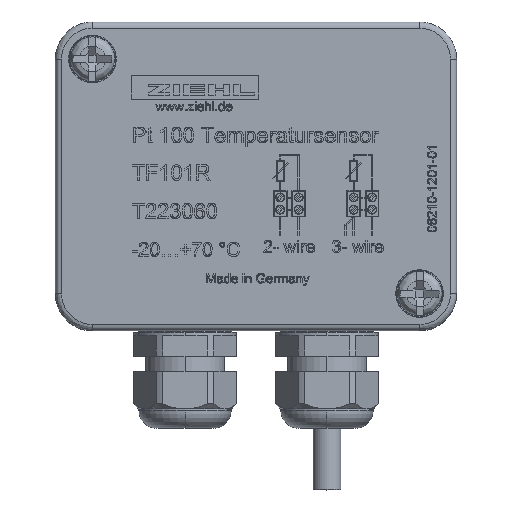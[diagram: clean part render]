
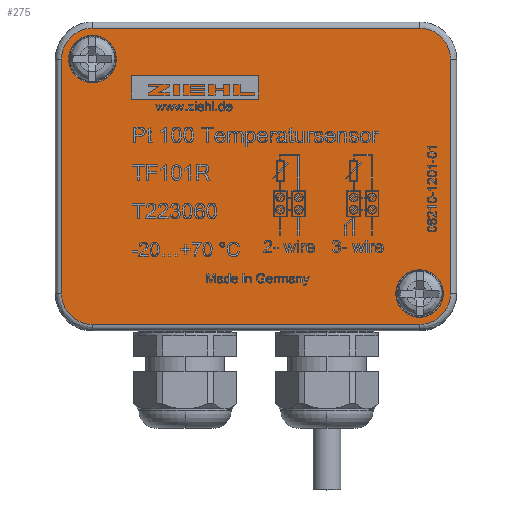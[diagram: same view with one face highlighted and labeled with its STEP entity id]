
A CAD part, top view. The second image highlights one B-rep face of the part: STEP entity #275.
In plain terms, the highlighted planar face has unit normal (0, 0, 1).
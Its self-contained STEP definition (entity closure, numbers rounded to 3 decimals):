
#275 = ADVANCED_FACE ( 'NONE', ( #18881, #35564, #9220 ), #45401, .F. ) ;
#903 = VERTEX_POINT ( 'NONE', #40307 ) ;
#3411 = EDGE_CURVE ( 'NONE', #58074, #37510, #49592, .T. ) ;
#4221 = CARTESIAN_POINT ( 'NONE',  ( 24., 26.5, 10. ) ) ;
#4758 = CARTESIAN_POINT ( 'NONE',  ( -24., -31.5, 10. ) ) ;
#5367 = EDGE_CURVE ( 'NONE', #56260, #56260, #51761, .T. ) ;
#5368 = CARTESIAN_POINT ( 'NONE',  ( -24., -26.5, 10. ) ) ;
#5603 = DIRECTION ( 'NONE',  ( 1., 0., 0. ) ) ;
#5811 = CARTESIAN_POINT ( 'NONE',  ( -19., -31.5, 10. ) ) ;
#6791 = VERTEX_POINT ( 'NONE', #5811 ) ;
#7887 = CARTESIAN_POINT ( 'NONE',  ( -19., 31.5, 10. ) ) ;
#9220 = FACE_BOUND ( 'NONE', #19762, .T. ) ;
#10016 = EDGE_CURVE ( 'NONE', #6791, #30674, #28299, .T. ) ;
#10092 = CARTESIAN_POINT ( 'NONE',  ( -24., 26.5, 10. ) ) ;
#10527 = EDGE_CURVE ( 'NONE', #37510, #903, #52987, .T. ) ;
#12082 = ORIENTED_EDGE ( 'NONE', *, *, #20029, .F. ) ;
#12246 = EDGE_CURVE ( 'NONE', #903, #57462, #40953, .T. ) ;
#13696 = EDGE_LOOP ( 'NONE', ( #26098 ) ) ;
#14440 = DIRECTION ( 'NONE',  ( 0., -1., 0. ) ) ;
#15219 = DIRECTION ( 'NONE',  ( 1., 0., 0. ) ) ;
#15281 = ORIENTED_EDGE ( 'NONE', *, *, #21992, .F. ) ;
#16559 = EDGE_CURVE ( 'NONE', #42516, #52634, #52451, .T. ) ;
#17245 = CARTESIAN_POINT ( 'NONE',  ( -24., 26.5, 10. ) ) ;
#18680 = CARTESIAN_POINT ( 'NONE',  ( 24., 26.5, 10. ) ) ;
#18881 = FACE_BOUND ( 'NONE', #13696, .T. ) ;
#19204 = CARTESIAN_POINT ( 'NONE',  ( 24., 29.429, 10. ) ) ;
#19762 = EDGE_LOOP ( 'NONE', ( #15281 ) ) ;
#20029 = EDGE_CURVE ( 'NONE', #57462, #42516, #47042, .T. ) ;
#20130 = CARTESIAN_POINT ( 'NONE',  ( 19., 26.5, 10. ) ) ;
#20254 = CARTESIAN_POINT ( 'NONE',  ( -19., -31.5, 10. ) ) ;
#20390 = CARTESIAN_POINT ( 'NONE',  ( -24., 31.5, 10. ) ) ;
#20681 = CARTESIAN_POINT ( 'NONE',  ( -24., 26.5, 10. ) ) ;
#20862 = CARTESIAN_POINT ( 'NONE',  ( -24., 29.429, 10. ) ) ;
#21517 = VECTOR ( 'NONE', #14440, 1000. ) ;
#21992 = EDGE_CURVE ( 'NONE', #49004, #49004, #55532, .T. ) ;
#24041 = LINE ( 'NONE', #17245, #48787 ) ;
#25295 = DIRECTION ( 'NONE',  ( 0., 0., 1. ) ) ;
#25575 = CARTESIAN_POINT ( 'NONE',  ( -24., -29.429, 10. ) ) ;
#26005 = DIRECTION ( 'NONE',  ( 0., 0., -1. ) ) ;
#26098 = ORIENTED_EDGE ( 'NONE', *, *, #5367, .F. ) ;
#27095 = CARTESIAN_POINT ( 'NONE',  ( 24., -26.5, 10. ) ) ;
#27317 = CARTESIAN_POINT ( 'NONE',  ( 24., -29.429, 10. ) ) ;
#28299 =( BOUNDED_CURVE ( )  B_SPLINE_CURVE ( 3, ( #20254, #61982, #25575, #56861 ),
 .UNSPECIFIED., .F., .F. ) 
 B_SPLINE_CURVE_WITH_KNOTS ( ( 4, 4 ),
 ( 0., 1. ),
 .UNSPECIFIED. ) 
 CURVE ( )  GEOMETRIC_REPRESENTATION_ITEM ( )  RATIONAL_B_SPLINE_CURVE ( ( 1., 0.805, 0.805, 1. ) ) 
 REPRESENTATION_ITEM ( '' )  );
#30674 = VERTEX_POINT ( 'NONE', #5368 ) ;
#34764 = EDGE_LOOP ( 'NONE', ( #12082, #49918, #48503, #49051, #35601, #50943, #45702, #65892 ) ) ;
#35274 = LINE ( 'NONE', #4758, #43276 ) ;
#35564 = FACE_OUTER_BOUND ( 'NONE', #34764, .T. ) ;
#35601 = ORIENTED_EDGE ( 'NONE', *, *, #53096, .F. ) ;
#36534 = AXIS2_PLACEMENT_3D ( 'NONE', #20681, #26005, #41330 ) ;
#37510 = VERTEX_POINT ( 'NONE', #7887 ) ;
#38382 = CARTESIAN_POINT ( 'NONE',  ( 24., -26.5, 10. ) ) ;
#39882 = CARTESIAN_POINT ( 'NONE',  ( 19., 31.5, 10. ) ) ;
#40250 = CARTESIAN_POINT ( 'NONE',  ( -15.148, -26.5, 10. ) ) ;
#40307 = CARTESIAN_POINT ( 'NONE',  ( 19., 31.5, 10. ) ) ;
#40398 = DIRECTION ( 'NONE',  ( 1., 0., 0. ) ) ;
#40789 = DIRECTION ( 'NONE',  ( 0., 0., 1. ) ) ;
#40953 =( BOUNDED_CURVE ( )  B_SPLINE_CURVE ( 3, ( #39882, #50000, #19204, #4221 ),
 .UNSPECIFIED., .F., .F. ) 
 B_SPLINE_CURVE_WITH_KNOTS ( ( 4, 4 ),
 ( 0., 1. ),
 .UNSPECIFIED. ) 
 CURVE ( )  GEOMETRIC_REPRESENTATION_ITEM ( )  RATIONAL_B_SPLINE_CURVE ( ( 1., 0.805, 0.805, 1. ) ) 
 REPRESENTATION_ITEM ( '' )  );
#41330 = DIRECTION ( 'NONE',  ( -1., 0., 0. ) ) ;
#42516 = VERTEX_POINT ( 'NONE', #38382 ) ;
#43276 = VECTOR ( 'NONE', #55255, 1000. ) ;
#44972 = AXIS2_PLACEMENT_3D ( 'NONE', #61468, #25295, #40398 ) ;
#45401 = PLANE ( 'NONE',  #36534 ) ;
#45702 = ORIENTED_EDGE ( 'NONE', *, *, #62820, .F. ) ;
#46257 = CARTESIAN_POINT ( 'NONE',  ( -21.929, 31.5, 10. ) ) ;
#47042 = LINE ( 'NONE', #54867, #21517 ) ;
#47146 = DIRECTION ( 'NONE',  ( 0., 1., 0. ) ) ;
#47406 = VECTOR ( 'NONE', #15219, 1000. ) ;
#48503 = ORIENTED_EDGE ( 'NONE', *, *, #10527, .F. ) ;
#48787 = VECTOR ( 'NONE', #47146, 1000. ) ;
#49004 = VERTEX_POINT ( 'NONE', #61324 ) ;
#49051 = ORIENTED_EDGE ( 'NONE', *, *, #3411, .F. ) ;
#49592 =( BOUNDED_CURVE ( )  B_SPLINE_CURVE ( 3, ( #10092, #20862, #46257, #51651 ),
 .UNSPECIFIED., .F., .F. ) 
 B_SPLINE_CURVE_WITH_KNOTS ( ( 4, 4 ),
 ( 0., 1. ),
 .UNSPECIFIED. ) 
 CURVE ( )  GEOMETRIC_REPRESENTATION_ITEM ( )  RATIONAL_B_SPLINE_CURVE ( ( 1., 0.805, 0.805, 1. ) ) 
 REPRESENTATION_ITEM ( '' )  );
#49918 = ORIENTED_EDGE ( 'NONE', *, *, #12246, .F. ) ;
#50000 = CARTESIAN_POINT ( 'NONE',  ( 21.929, 31.5, 10. ) ) ;
#50943 = ORIENTED_EDGE ( 'NONE', *, *, #10016, .F. ) ;
#51651 = CARTESIAN_POINT ( 'NONE',  ( -19., 31.5, 10. ) ) ;
#51761 = CIRCLE ( 'NONE', #44972, 3.852 ) ;
#52451 =( BOUNDED_CURVE ( )  B_SPLINE_CURVE ( 3, ( #27095, #27317, #52570, #63508 ),
 .UNSPECIFIED., .F., .F. ) 
 B_SPLINE_CURVE_WITH_KNOTS ( ( 4, 4 ),
 ( 0., 1. ),
 .UNSPECIFIED. ) 
 CURVE ( )  GEOMETRIC_REPRESENTATION_ITEM ( )  RATIONAL_B_SPLINE_CURVE ( ( 1., 0.805, 0.805, 1. ) ) 
 REPRESENTATION_ITEM ( '' )  );
#52570 = CARTESIAN_POINT ( 'NONE',  ( 21.929, -31.5, 10. ) ) ;
#52634 = VERTEX_POINT ( 'NONE', #58426 ) ;
#52987 = LINE ( 'NONE', #20390, #47406 ) ;
#53096 = EDGE_CURVE ( 'NONE', #30674, #58074, #24041, .T. ) ;
#54867 = CARTESIAN_POINT ( 'NONE',  ( 24., 26.5, 10. ) ) ;
#55255 = DIRECTION ( 'NONE',  ( -1., 0., 0. ) ) ;
#55532 = CIRCLE ( 'NONE', #60756, 3.852 ) ;
#56260 = VERTEX_POINT ( 'NONE', #40250 ) ;
#56306 = CARTESIAN_POINT ( 'NONE',  ( -24., 26.5, 10. ) ) ;
#56861 = CARTESIAN_POINT ( 'NONE',  ( -24., -26.5, 10. ) ) ;
#57462 = VERTEX_POINT ( 'NONE', #18680 ) ;
#58074 = VERTEX_POINT ( 'NONE', #56306 ) ;
#58426 = CARTESIAN_POINT ( 'NONE',  ( 19., -31.5, 10. ) ) ;
#60756 = AXIS2_PLACEMENT_3D ( 'NONE', #20130, #40789, #5603 ) ;
#61324 = CARTESIAN_POINT ( 'NONE',  ( 22.852, 26.5, 10. ) ) ;
#61468 = CARTESIAN_POINT ( 'NONE',  ( -19., -26.5, 10. ) ) ;
#61982 = CARTESIAN_POINT ( 'NONE',  ( -21.929, -31.5, 10. ) ) ;
#62820 = EDGE_CURVE ( 'NONE', #52634, #6791, #35274, .T. ) ;
#63508 = CARTESIAN_POINT ( 'NONE',  ( 19., -31.5, 10. ) ) ;
#65892 = ORIENTED_EDGE ( 'NONE', *, *, #16559, .F. ) ;
